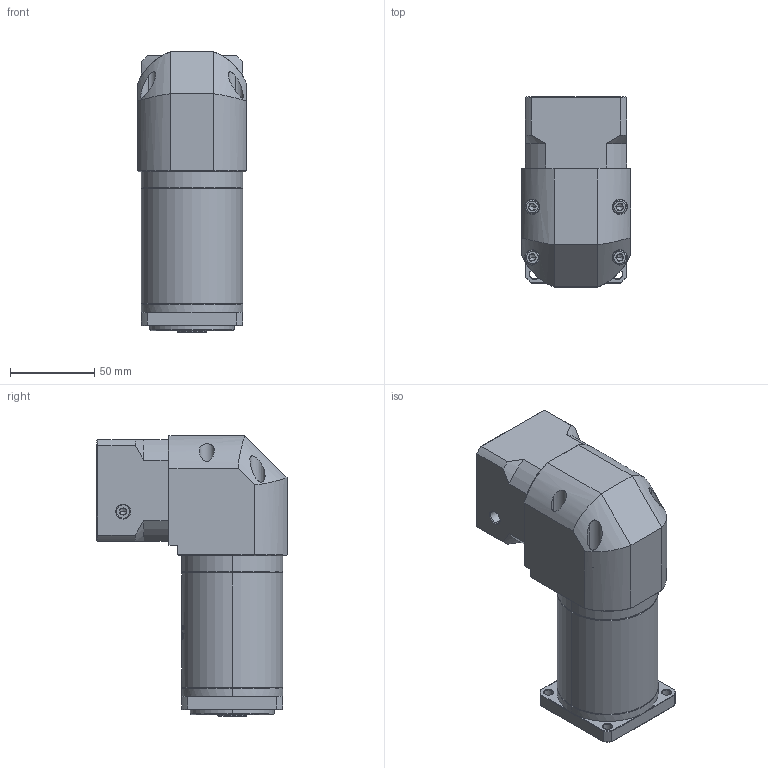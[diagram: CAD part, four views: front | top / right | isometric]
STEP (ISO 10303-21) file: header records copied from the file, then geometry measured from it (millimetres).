
FILE_DESCRIPTION (( 'STEP AP214' ), '1' );
FILE_NAME ('ZFR060-K10-L3-P2-8-38.1-47.14x47.14-M4.step', '2023-08-17T03:40:14', ( '' ), ( '' ), 'SwSTEP 2.0', 'SolidWorks 2016', '' );
FILE_SCHEMA (( 'AUTOMOTIVE_DESIGN' ));
Length unit declared in the file: millimetre
Products named in the file (1): ZFR060-K10-L3-P2-8-38.1-47.14x47.14-M4
Bounding box: 65 x 112.7 x 166.5 mm (x, y, z)
Volume: 634050.8 mm3; surface area: 85301.3 mm2
Topology: 5 solids, 6 shells, 1852 faces, 4965 edges, 3210 vertices
Faces by surface type: plane 841, cylinder 358, bspline 347, cone 282, torus 24
Entity records: 97957 total; most frequent: CARTESIAN_POINT 35098, ORIENTED_EDGE 9890, DIRECTION 7458, EDGE_CURVE 4945, VERTEX_POINT 3210, VECTOR 2536, LINE 2536, AXIS2_PLACEMENT_3D 2461
